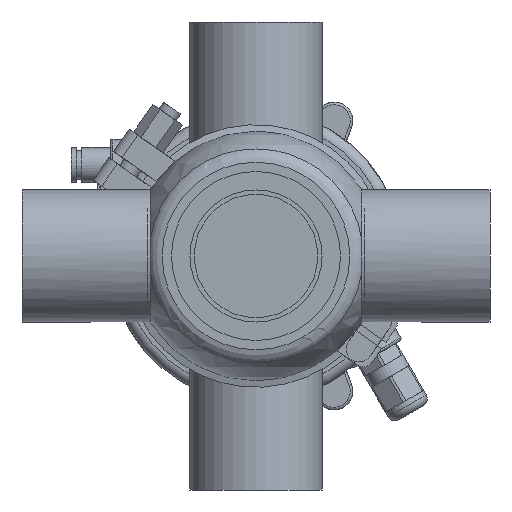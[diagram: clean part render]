
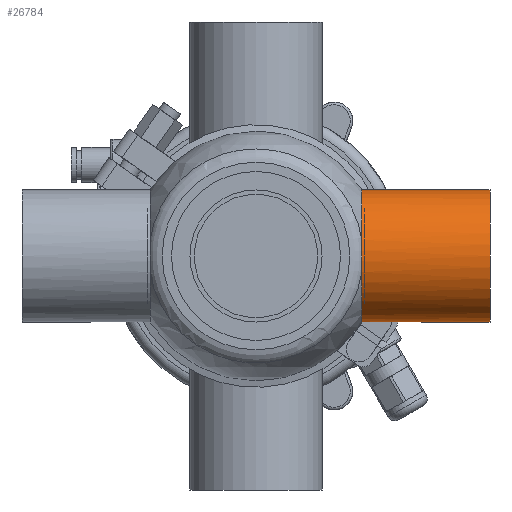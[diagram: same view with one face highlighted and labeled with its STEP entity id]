
A CAD part, front view. The second image highlights one B-rep face of the part: STEP entity #26784.
In plain terms, the highlighted cylindrical face has radius 25.4 mm (diameter 50.8 mm), a full revolution.
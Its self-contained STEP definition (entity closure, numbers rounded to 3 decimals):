
#1712 = CARTESIAN_POINT ( 'NONE',  ( 40.689, -25.275, -2.566 ) ) ;
#2084 = CIRCLE ( 'NONE', #32818, 25.4 ) ;
#5386 = DIRECTION ( 'NONE',  ( -1., 0., 0. ) ) ;
#7288 = CARTESIAN_POINT ( 'NONE',  ( 40.672, -25.385, -1.022 ) ) ;
#7693 = EDGE_CURVE ( 'NONE', #16258, #27974, #56007, .T. ) ;
#11477 = ORIENTED_EDGE ( 'NONE', *, *, #21781, .T. ) ;
#12653 = CARTESIAN_POINT ( 'NONE',  ( 40.729, 0., 0. ) ) ;
#15024 = DIRECTION ( 'NONE',  ( 0., 0., 1. ) ) ;
#16258 = VERTEX_POINT ( 'NONE', #47099 ) ;
#20705 = CARTESIAN_POINT ( 'NONE',  ( 40.67, -25.4, 1.042 ) ) ;
#21000 = CARTESIAN_POINT ( 'NONE',  ( 40.681, -25.337, 2.066 ) ) ;
#21781 = EDGE_CURVE ( 'NONE', #27974, #16258, #61037, .T. ) ;
#22629 = VERTEX_POINT ( 'NONE', #41590 ) ;
#24931 = EDGE_LOOP ( 'NONE', ( #59630 ) ) ;
#26784 = ADVANCED_FACE ( 'NONE', ( #55962, #27726 ), #46606, .T. ) ;
#27726 = FACE_OUTER_BOUND ( 'NONE', #24931, .T. ) ;
#27974 = VERTEX_POINT ( 'NONE', #36448 ) ;
#28012 = AXIS2_PLACEMENT_3D ( 'NONE', #38628, #57804, #57177 ) ;
#32818 = AXIS2_PLACEMENT_3D ( 'NONE', #58151, #5386, #15024 ) ;
#36288 = EDGE_LOOP ( 'NONE', ( #59439, #11477 ) ) ;
#36448 = CARTESIAN_POINT ( 'NONE',  ( 40.729, -24.652, 6.117 ) ) ;
#38628 = CARTESIAN_POINT ( 'NONE',  ( 0., 0., 0. ) ) ;
#39342 = CARTESIAN_POINT ( 'NONE',  ( 40.729, -24.902, -5.113 ) ) ;
#41317 = DIRECTION ( 'NONE',  ( 0., 0., 1. ) ) ;
#41590 = CARTESIAN_POINT ( 'NONE',  ( 90., 0., 25.4 ) ) ;
#41906 = DIRECTION ( 'NONE',  ( 1., 0., 0. ) ) ;
#43949 = CARTESIAN_POINT ( 'NONE',  ( 40.729, -24.652, 6.117 ) ) ;
#44166 = AXIS2_PLACEMENT_3D ( 'NONE', #12653, #41906, #41317 ) ;
#44247 = CARTESIAN_POINT ( 'NONE',  ( 40.729, -24.902, 5.113 ) ) ;
#45118 = CARTESIAN_POINT ( 'NONE',  ( 40.711, -25.088, -4.099 ) ) ;
#46606 = CYLINDRICAL_SURFACE ( 'NONE', #28012, 25.4 ) ;
#47099 = CARTESIAN_POINT ( 'NONE',  ( 40.729, -24.652, -6.117 ) ) ;
#53562 = CARTESIAN_POINT ( 'NONE',  ( 40.682, -25.322, -2.053 ) ) ;
#53859 = CARTESIAN_POINT ( 'NONE',  ( 40.711, -25.088, 4.101 ) ) ;
#54159 = CARTESIAN_POINT ( 'NONE',  ( 40.669, -25.4, -0.503 ) ) ;
#55962 = FACE_OUTER_BOUND ( 'NONE', #36288, .T. ) ;
#56007 = CIRCLE ( 'NONE', #44166, 25.4 ) ;
#57177 = DIRECTION ( 'NONE',  ( 0., 0., 1. ) ) ;
#57804 = DIRECTION ( 'NONE',  ( -1., 0., 0. ) ) ;
#58151 = CARTESIAN_POINT ( 'NONE',  ( 90., 0., 0. ) ) ;
#58508 = CARTESIAN_POINT ( 'NONE',  ( 40.729, -24.652, -6.117 ) ) ;
#59439 = ORIENTED_EDGE ( 'NONE', *, *, #7693, .T. ) ;
#59630 = ORIENTED_EDGE ( 'NONE', *, *, #61148, .T. ) ;
#61037 = B_SPLINE_CURVE_WITH_KNOTS ( 'NONE', 3,
 ( #43949, #44247, #53859, #21000, #20705, #54159, #7288, #53562, #1712, #45118, #39342, #58508 ),
 .UNSPECIFIED., .F., .F.,
 ( 4, 2, 2, 2, 2, 4 ),
 ( 0., 0.003, 0.006, 0.008, 0.009, 0.012 ),
 .UNSPECIFIED. ) ;
#61148 = EDGE_CURVE ( 'NONE', #22629, #22629, #2084, .T. ) ;
